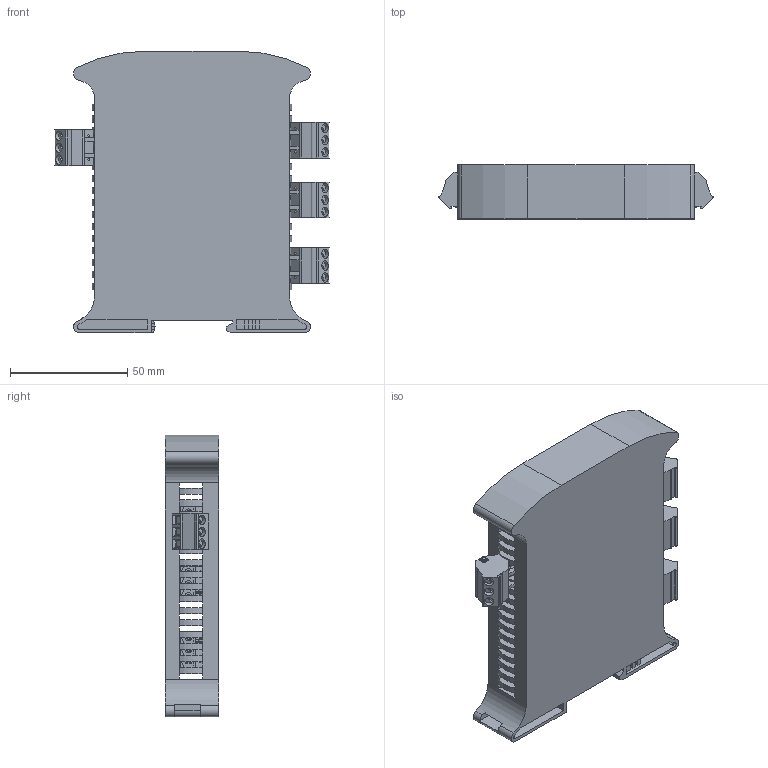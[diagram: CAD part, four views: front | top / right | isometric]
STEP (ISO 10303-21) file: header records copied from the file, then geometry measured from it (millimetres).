
FILE_DESCRIPTION(/* description */ (''),/* implementation_level */ '2;1');
FILE_NAME(/* name */ 'CAL23DmA_.step',/* time_stamp */ '2023-09-22T15:22:40+02:00',/* author */ (''),/* organization */ (''),/* preprocessor_version */ 'ST-DEVELOPER v20',/* originating_system */ 'Autodesk Translation Framework v12.14.0.127',/* authorisation */ '');
FILE_SCHEMA (('AUTOMOTIVE_DESIGN { 1 0 10303 214 3 1 1 }'));
Length unit declared in the file: millimetre
Products named in the file (7): CAL23DmA; CAL23D Seguro v5; 1826296 v1; 1826296 v1_1; 1826296 v1_2; 1826296 v1_3; 1826296
Assembly tree (9 placements, depth 3):
  CAL23DmA
    CAL23D Seguro v5
    1826296 v1
      1826296
    1826296 v1_1
      1826296
    1826296 v1_2
      1826296
    1826296 v1_3
      1826296
Bounding box: 116.95 x 23 x 120 mm (x, y, z)
Volume: 205385.9 mm3; surface area: 76809.3 mm2
Topology: 6 solids, 6 shells, 1111 faces, 2995 edges, 1944 vertices
Faces by surface type: plane 789, cylinder 314, sphere 8
Full cylindrical faces by diameter (mm): 0.457 x4, 1.4 x12, 2.8 x8, 3.783 x12, 4 x12
Entity records: 14276 total; most frequent: CARTESIAN_POINT 2416, DIRECTION 2406, ORIENTED_EDGE 2402, EDGE_CURVE 1201, LINE 920, VECTOR 920, VERTEX_POINT 753, AXIS2_PLACEMENT_3D 743
